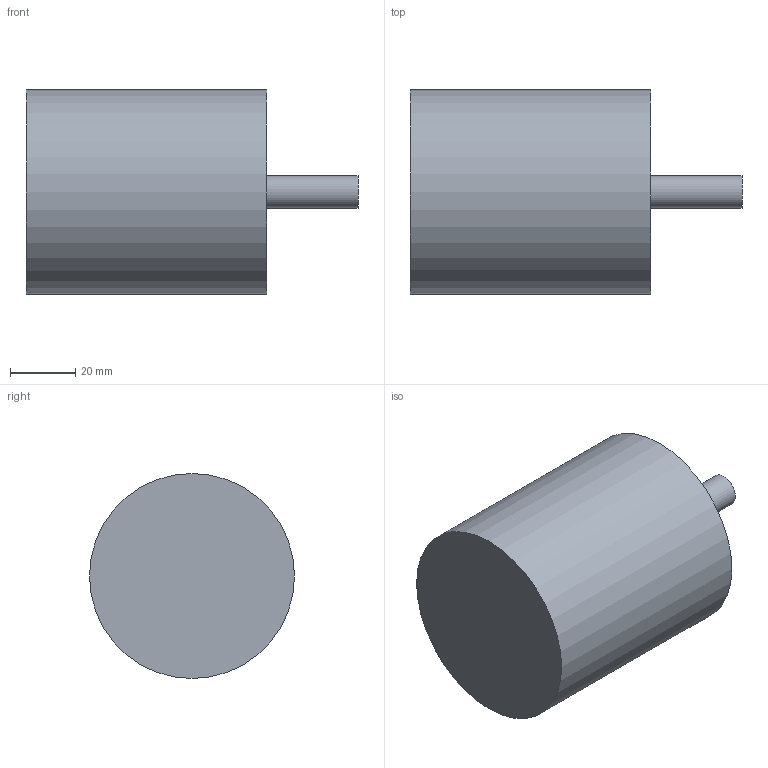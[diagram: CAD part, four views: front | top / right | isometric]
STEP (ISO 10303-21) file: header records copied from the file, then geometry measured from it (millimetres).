
FILE_DESCRIPTION(('Open CASCADE Model'),'2;1');
FILE_NAME('Open CASCADE Shape Model','2026-11-23T20:25:51',('Author'),( 'Open CASCADE'),'Open CASCADE STEP processor 7.9','Open CASCADE 7.9' ,'Unknown');
FILE_SCHEMA(('AUTOMOTIVE_DESIGN { 1 0 10303 214 1 1 1 1 }'));
Length unit declared in the file: millimetre
Products named in the file (1): Open CASCADE STEP translator 7.9 25
Bounding box: 102 x 63 x 63 mm (x, y, z)
Volume: 232875.3 mm3; surface area: 21760.2 mm2
Topology: 1 solids, 1 shells, 5 faces, 6 edges, 4 vertices
Faces by surface type: plane 3, cylinder 2
Full cylindrical faces by diameter (mm): 10 x1, 63 x1
Entity records: 192 total; most frequent: DIRECTION 34, CARTESIAN_POINT 28, ORIENTED_EDGE 12, PCURVE 12, DEFINITIONAL_REPRESENTATION 12, AXIS2_PLACEMENT_3D 10, LINE 10, VECTOR 10
